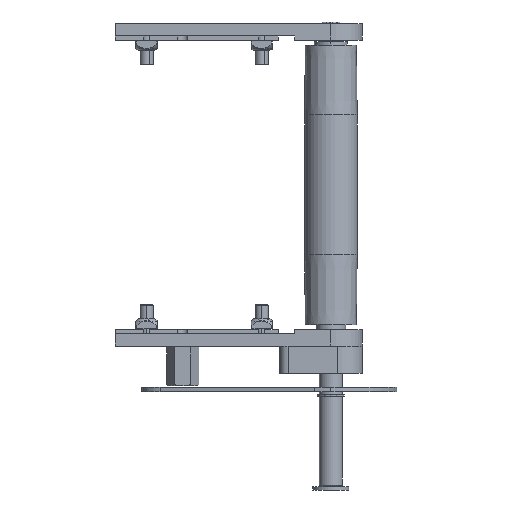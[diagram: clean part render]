
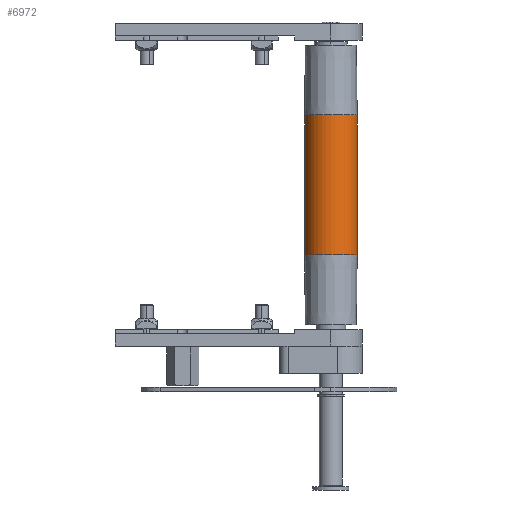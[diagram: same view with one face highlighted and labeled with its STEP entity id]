
A CAD part, front view. The second image highlights one B-rep face of the part: STEP entity #6972.
In plain terms, the highlighted cylindrical face has radius 16 mm (diameter 32 mm), a partial arc.
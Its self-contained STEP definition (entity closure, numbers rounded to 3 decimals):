
#178 = EDGE_CURVE ( 'NONE', #4649, #9685, #7973, .T. ) ;
#1266 = CARTESIAN_POINT ( 'NONE',  ( 226., 0., 0. ) ) ;
#1796 = DIRECTION ( 'NONE',  ( -1., 0., 0. ) ) ;
#1916 = EDGE_CURVE ( 'NONE', #8723, #11449, #16500, .T. ) ;
#2043 = CARTESIAN_POINT ( 'NONE',  ( 0., 0., 16. ) ) ;
#2537 = ORIENTED_EDGE ( 'NONE', *, *, #1916, .T. ) ;
#2846 = CARTESIAN_POINT ( 'NONE',  ( 0., 0., -16. ) ) ;
#3264 = CARTESIAN_POINT ( 'NONE',  ( 0., 0., 0. ) ) ;
#4408 = LINE ( 'NONE', #2846, #10668 ) ;
#4649 = VERTEX_POINT ( 'NONE', #16518 ) ;
#4711 = ORIENTED_EDGE ( 'NONE', *, *, #6494, .T. ) ;
#4755 = DIRECTION ( 'NONE',  ( 1., 0., 0. ) ) ;
#5284 = EDGE_CURVE ( 'NONE', #9685, #11449, #9447, .T. ) ;
#5881 = CARTESIAN_POINT ( 'NONE',  ( 226., 0., 16. ) ) ;
#6117 = VECTOR ( 'NONE', #4755, 1000. ) ;
#6191 = DIRECTION ( 'NONE',  ( 1., 0., 0. ) ) ;
#6494 = EDGE_CURVE ( 'NONE', #4649, #8723, #4408, .T. ) ;
#6622 = AXIS2_PLACEMENT_3D ( 'NONE', #1266, #16082, #14834 ) ;
#6772 = DIRECTION ( 'NONE',  ( 1., 0., 0. ) ) ;
#6972 = ADVANCED_FACE ( 'NONE', ( #7945 ), #8584, .T. ) ;
#7945 = FACE_OUTER_BOUND ( 'NONE', #9247, .T. ) ;
#7973 = CIRCLE ( 'NONE', #9665, 16. ) ;
#8415 = DIRECTION ( 'NONE',  ( 0., 0., 1. ) ) ;
#8584 = CYLINDRICAL_SURFACE ( 'NONE', #15444, 16. ) ;
#8723 = VERTEX_POINT ( 'NONE', #17250 ) ;
#9247 = EDGE_LOOP ( 'NONE', ( #13605, #13820, #4711, #2537 ) ) ;
#9447 = LINE ( 'NONE', #2043, #6117 ) ;
#9665 = AXIS2_PLACEMENT_3D ( 'NONE', #9681, #1796, #8415 ) ;
#9681 = CARTESIAN_POINT ( 'NONE',  ( 141., 0., 0. ) ) ;
#9685 = VERTEX_POINT ( 'NONE', #11110 ) ;
#10285 = DIRECTION ( 'NONE',  ( 0., 0., -1. ) ) ;
#10668 = VECTOR ( 'NONE', #6772, 1000. ) ;
#11110 = CARTESIAN_POINT ( 'NONE',  ( 141., 0., 16. ) ) ;
#11449 = VERTEX_POINT ( 'NONE', #5881 ) ;
#13605 = ORIENTED_EDGE ( 'NONE', *, *, #5284, .F. ) ;
#13820 = ORIENTED_EDGE ( 'NONE', *, *, #178, .F. ) ;
#14834 = DIRECTION ( 'NONE',  ( 0., 0., 1. ) ) ;
#15444 = AXIS2_PLACEMENT_3D ( 'NONE', #3264, #6191, #10285 ) ;
#16082 = DIRECTION ( 'NONE',  ( -1., 0., 0. ) ) ;
#16500 = CIRCLE ( 'NONE', #6622, 16. ) ;
#16518 = CARTESIAN_POINT ( 'NONE',  ( 141., 0., -16. ) ) ;
#17250 = CARTESIAN_POINT ( 'NONE',  ( 226., 0., -16. ) ) ;
